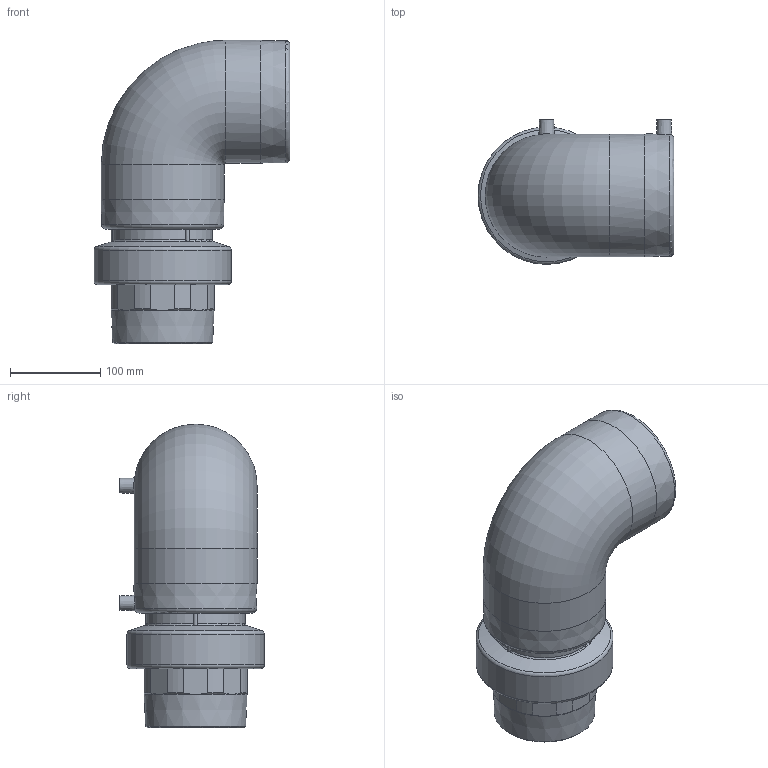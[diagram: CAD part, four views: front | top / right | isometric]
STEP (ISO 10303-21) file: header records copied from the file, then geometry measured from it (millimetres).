
FILE_DESCRIPTION(/* description */ ('Unknown'),/* implementation_level */ '2;1');
FILE_NAME(/* name */ 'GE9TMP110C',/* time_stamp */ '2021-03-02T12:31:32+01:00',/* author */ ('Unknown'),/* organization */ ('Unknown'),/* preprocessor_version */ 'ST-DEVELOPER v16.7',/* originating_system */ 'Solid Edge',/* authorisation */ 'Unknown');
FILE_SCHEMA (('AUTOMOTIVE_DESIGN {1 0 10303 214 3 1 1}'));
Length unit declared in the file: millimetre
Products named in the file (5): GE9TMP110C; GE9P110C; RTOMP110C; Parte PE 110; IOM110C
Assembly tree (4 placements, depth 3):
  GE9TMP110C
    GE9P110C
    RTOMP110C
      Parte PE 110
      IOM110C
Bounding box: 217 x 160 x 336 mm (x, y, z)
Volume: 2304306.5 mm3; surface area: 432422.6 mm2
Topology: 3 solids, 3 shells, 223 faces, 537 edges, 339 vertices
Faces by surface type: plane 110, cylinder 58, cone 25, torus 15, bspline 15
Full cylindrical faces by diameter (mm): 4 x2, 6 x2, 12 x2, 90 x1, 100 x4, 106 x2, 110 x3, 119 x2, 123.4 x2, 129 x8, 136 x2, 152 x1
Entity records: 7163 total; most frequent: CARTESIAN_POINT 1494, DIRECTION 1054, ORIENTED_EDGE 932, EDGE_CURVE 466, AXIS2_PLACEMENT_3D 433, VERTEX_POINT 321, EDGE_LOOP 301, FACE_BOUND 301
